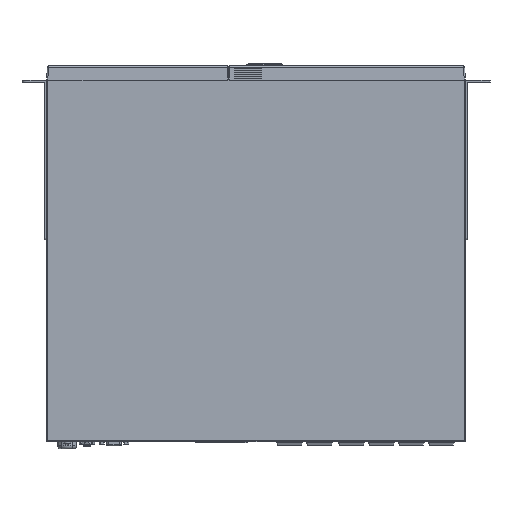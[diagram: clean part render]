
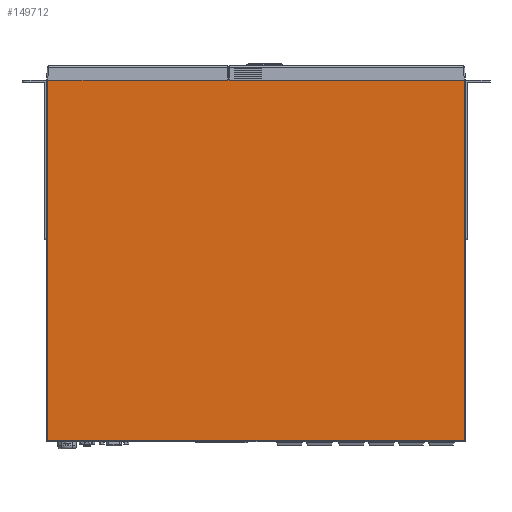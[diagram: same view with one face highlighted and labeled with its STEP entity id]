
A CAD part, front view. The second image highlights one B-rep face of the part: STEP entity #149712.
In plain terms, the highlighted planar face has unit normal (0, -1, 0).
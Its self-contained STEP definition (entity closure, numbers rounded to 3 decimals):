
#3943 = VERTEX_POINT ( 'NONE', #23232 ) ;
#5328 = LINE ( 'NONE', #53762, #145649 ) ;
#6642 = EDGE_LOOP ( 'NONE', ( #55921, #6673, #13485, #33976, #151867, #51600, #71365, #131538 ) ) ;
#6673 = ORIENTED_EDGE ( 'NONE', *, *, #72668, .F. ) ;
#12222 = VECTOR ( 'NONE', #130182, 1000. ) ;
#13485 = ORIENTED_EDGE ( 'NONE', *, *, #69323, .T. ) ;
#13540 = CARTESIAN_POINT ( 'NONE',  ( -29.2, 0., 0. ) ) ;
#17092 = VERTEX_POINT ( 'NONE', #124704 ) ;
#20144 = EDGE_CURVE ( 'NONE', #134256, #32391, #5328, .T. ) ;
#20637 = EDGE_CURVE ( 'NONE', #3943, #139166, #122140, .T. ) ;
#22523 = DIRECTION ( 'NONE',  ( 0., 0., 1. ) ) ;
#23232 = CARTESIAN_POINT ( 'NONE',  ( -215.3, 0., -372.5 ) ) ;
#24745 =( BOUNDED_CURVE ( )  B_SPLINE_CURVE ( 3, ( #104907, #64483, #173159, #91827 ),
 .UNSPECIFIED., .F., .F. ) 
 B_SPLINE_CURVE_WITH_KNOTS ( ( 4, 4 ),
 ( 3.142, 3.145 ),
 .UNSPECIFIED. ) 
 CURVE ( )  GEOMETRIC_REPRESENTATION_ITEM ( )  RATIONAL_B_SPLINE_CURVE ( ( 1., 1., 1., 1. ) ) 
 REPRESENTATION_ITEM ( '' )  );
#27039 = DIRECTION ( 'NONE',  ( 1., 0., 0. ) ) ;
#28359 = DIRECTION ( 'NONE',  ( 0., 0., -1. ) ) ;
#28718 = VERTEX_POINT ( 'NONE', #86454 ) ;
#32391 = VERTEX_POINT ( 'NONE', #175252 ) ;
#33431 = EDGE_CURVE ( 'NONE', #28718, #17092, #164012, .T. ) ;
#33976 = ORIENTED_EDGE ( 'NONE', *, *, #20144, .F. ) ;
#34275 = LINE ( 'NONE', #52457, #66154 ) ;
#34281 = VERTEX_POINT ( 'NONE', #79009 ) ;
#35863 = VECTOR ( 'NONE', #22523, 1000. ) ;
#40108 = LINE ( 'NONE', #76593, #35863 ) ;
#51600 = ORIENTED_EDGE ( 'NONE', *, *, #33431, .F. ) ;
#52457 = CARTESIAN_POINT ( 'NONE',  ( -215.3, 0., -372.5 ) ) ;
#53762 = CARTESIAN_POINT ( 'NONE',  ( -215.3, 0., 0. ) ) ;
#55097 = PLANE ( 'NONE',  #112693 ) ;
#55593 = VECTOR ( 'NONE', #89952, 1000. ) ;
#55921 = ORIENTED_EDGE ( 'NONE', *, *, #154894, .T. ) ;
#63127 = EDGE_CURVE ( 'NONE', #134256, #17092, #103418, .T. ) ;
#64483 = CARTESIAN_POINT ( 'NONE',  ( -27.8, 0., 0. ) ) ;
#66154 = VECTOR ( 'NONE', #161199, 1000. ) ;
#67610 = CARTESIAN_POINT ( 'NONE',  ( -29.2, 0., 0. ) ) ;
#69323 = EDGE_CURVE ( 'NONE', #34281, #32391, #24745, .T. ) ;
#71225 = CARTESIAN_POINT ( 'NONE',  ( 215.3, 0., 0. ) ) ;
#71365 = ORIENTED_EDGE ( 'NONE', *, *, #144794, .F. ) ;
#72668 = EDGE_CURVE ( 'NONE', #34281, #91061, #120636, .T. ) ;
#76174 = CARTESIAN_POINT ( 'NONE',  ( -215.3, 0., -372.5 ) ) ;
#76270 = CARTESIAN_POINT ( 'NONE',  ( -215.3, 0., 0. ) ) ;
#76593 = CARTESIAN_POINT ( 'NONE',  ( 215.3, 0., -372.5 ) ) ;
#79009 = CARTESIAN_POINT ( 'NONE',  ( -27.8, 0., 0. ) ) ;
#86454 = CARTESIAN_POINT ( 'NONE',  ( -215.3, 0., 0. ) ) ;
#89952 = DIRECTION ( 'NONE',  ( 1., 0., 0. ) ) ;
#91061 = VERTEX_POINT ( 'NONE', #71225 ) ;
#91827 = CARTESIAN_POINT ( 'NONE',  ( -27.8, 0., 0. ) ) ;
#94976 = CARTESIAN_POINT ( 'NONE',  ( -29.2, 0., 0. ) ) ;
#103418 =( BOUNDED_CURVE ( )  B_SPLINE_CURVE ( 3, ( #162715, #67610, #94976, #13540 ),
 .UNSPECIFIED., .F., .F. ) 
 B_SPLINE_CURVE_WITH_KNOTS ( ( 4, 4 ),
 ( 6.28, 6.283 ),
 .UNSPECIFIED. ) 
 CURVE ( )  GEOMETRIC_REPRESENTATION_ITEM ( )  RATIONAL_B_SPLINE_CURVE ( ( 1., 1., 1., 1. ) ) 
 REPRESENTATION_ITEM ( '' )  );
#104907 = CARTESIAN_POINT ( 'NONE',  ( -27.8, 0., 0. ) ) ;
#109759 = DIRECTION ( 'NONE',  ( 0., -1., 0. ) ) ;
#112693 = AXIS2_PLACEMENT_3D ( 'NONE', #150102, #109759, #28359 ) ;
#116518 = CARTESIAN_POINT ( 'NONE',  ( -216.5, 0., 0. ) ) ;
#117873 = VECTOR ( 'NONE', #143878, 1000. ) ;
#120636 = LINE ( 'NONE', #116518, #12222 ) ;
#122140 = LINE ( 'NONE', #76174, #117873 ) ;
#124704 = CARTESIAN_POINT ( 'NONE',  ( -29.2, 0., 0. ) ) ;
#130182 = DIRECTION ( 'NONE',  ( 1., 0., 0. ) ) ;
#131538 = ORIENTED_EDGE ( 'NONE', *, *, #20637, .T. ) ;
#134256 = VERTEX_POINT ( 'NONE', #154586 ) ;
#137751 = CARTESIAN_POINT ( 'NONE',  ( 215.3, 0., -372.5 ) ) ;
#139166 = VERTEX_POINT ( 'NONE', #137751 ) ;
#139303 = FACE_OUTER_BOUND ( 'NONE', #6642, .T. ) ;
#143878 = DIRECTION ( 'NONE',  ( 1., 0., 0. ) ) ;
#144794 = EDGE_CURVE ( 'NONE', #3943, #28718, #34275, .T. ) ;
#145649 = VECTOR ( 'NONE', #27039, 1000. ) ;
#149712 = ADVANCED_FACE ( 'NONE', ( #139303 ), #55097, .T. ) ;
#150102 = CARTESIAN_POINT ( 'NONE',  ( -215.3, 0., -372.5 ) ) ;
#151867 = ORIENTED_EDGE ( 'NONE', *, *, #63127, .T. ) ;
#154586 = CARTESIAN_POINT ( 'NONE',  ( -29.2, 0., 0. ) ) ;
#154894 = EDGE_CURVE ( 'NONE', #139166, #91061, #40108, .T. ) ;
#161199 = DIRECTION ( 'NONE',  ( 0., 0., 1. ) ) ;
#162715 = CARTESIAN_POINT ( 'NONE',  ( -29.2, 0., 0. ) ) ;
#164012 = LINE ( 'NONE', #76270, #55593 ) ;
#173159 = CARTESIAN_POINT ( 'NONE',  ( -27.8, 0., 0. ) ) ;
#175252 = CARTESIAN_POINT ( 'NONE',  ( -27.8, 0., 0. ) ) ;
